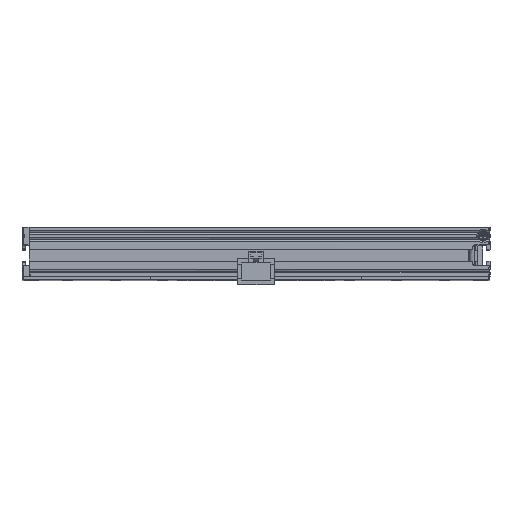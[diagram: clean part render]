
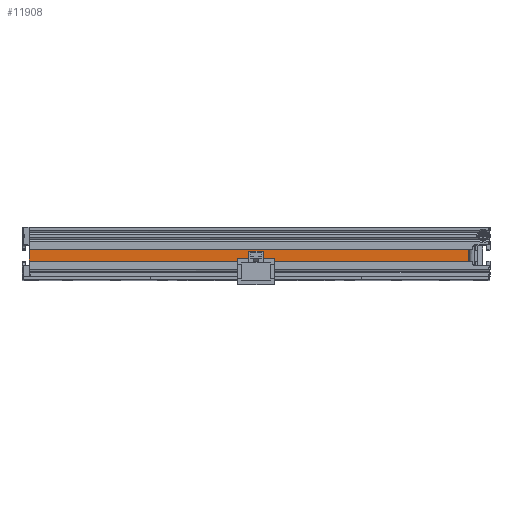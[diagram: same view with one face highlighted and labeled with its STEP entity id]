
A CAD part, top view. The second image highlights one B-rep face of the part: STEP entity #11908.
In plain terms, the highlighted planar face has unit normal (0, 0, 1).
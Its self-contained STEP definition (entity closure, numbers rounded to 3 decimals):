
#1735 = EDGE_CURVE ( 'NONE', #32659, #9790, #24902, .T. ) ;
#2897 = EDGE_LOOP ( 'NONE', ( #37361, #34010, #8924, #14215 ) ) ;
#3688 = CARTESIAN_POINT ( 'NONE',  ( 60.5, 5.35, 62. ) ) ;
#5154 = VECTOR ( 'NONE', #19396, 1000. ) ;
#6084 = CARTESIAN_POINT ( 'NONE',  ( -64.5, 5.35, 62. ) ) ;
#7050 = CARTESIAN_POINT ( 'NONE',  ( -64.5, 1., 62. ) ) ;
#8314 = CARTESIAN_POINT ( 'NONE',  ( -66.5, 5.35, 62. ) ) ;
#8786 = VERTEX_POINT ( 'NONE', #6084 ) ;
#8924 = ORIENTED_EDGE ( 'NONE', *, *, #31361, .F. ) ;
#9790 = VERTEX_POINT ( 'NONE', #9827 ) ;
#9827 = CARTESIAN_POINT ( 'NONE',  ( 60.5, 8.65, 62. ) ) ;
#11908 = ADVANCED_FACE ( 'NONE', ( #23842 ), #40935, .F. ) ;
#12074 = DIRECTION ( 'NONE',  ( 0., 0., -1. ) ) ;
#14215 = ORIENTED_EDGE ( 'NONE', *, *, #33670, .F. ) ;
#14561 = VECTOR ( 'NONE', #31040, 1000. ) ;
#15196 = VECTOR ( 'NONE', #35902, 1000. ) ;
#15205 = CARTESIAN_POINT ( 'NONE',  ( -66.5, 5.35, 62. ) ) ;
#18226 = VERTEX_POINT ( 'NONE', #30641 ) ;
#19210 = AXIS2_PLACEMENT_3D ( 'NONE', #15205, #12074, #34683 ) ;
#19396 = DIRECTION ( 'NONE',  ( 0., 1., 0. ) ) ;
#19988 = DIRECTION ( 'NONE',  ( 1., 0., 0. ) ) ;
#21807 = LINE ( 'NONE', #23402, #29843 ) ;
#23319 = EDGE_CURVE ( 'NONE', #8786, #32659, #37344, .T. ) ;
#23402 = CARTESIAN_POINT ( 'NONE',  ( -66.5, 8.65, 62. ) ) ;
#23842 = FACE_OUTER_BOUND ( 'NONE', #2897, .T. ) ;
#24165 = CARTESIAN_POINT ( 'NONE',  ( 60.5, 5.35, 62. ) ) ;
#24902 = LINE ( 'NONE', #3688, #5154 ) ;
#29843 = VECTOR ( 'NONE', #19988, 1000. ) ;
#30641 = CARTESIAN_POINT ( 'NONE',  ( -64.5, 8.65, 62. ) ) ;
#30822 = LINE ( 'NONE', #7050, #15196 ) ;
#31040 = DIRECTION ( 'NONE',  ( 1., 0., 0. ) ) ;
#31361 = EDGE_CURVE ( 'NONE', #18226, #9790, #21807, .T. ) ;
#32659 = VERTEX_POINT ( 'NONE', #24165 ) ;
#33670 = EDGE_CURVE ( 'NONE', #8786, #18226, #30822, .T. ) ;
#34010 = ORIENTED_EDGE ( 'NONE', *, *, #1735, .T. ) ;
#34683 = DIRECTION ( 'NONE',  ( -1., 0., 0. ) ) ;
#35902 = DIRECTION ( 'NONE',  ( 0., 1., 0. ) ) ;
#37344 = LINE ( 'NONE', #8314, #14561 ) ;
#37361 = ORIENTED_EDGE ( 'NONE', *, *, #23319, .T. ) ;
#40935 = PLANE ( 'NONE',  #19210 ) ;
